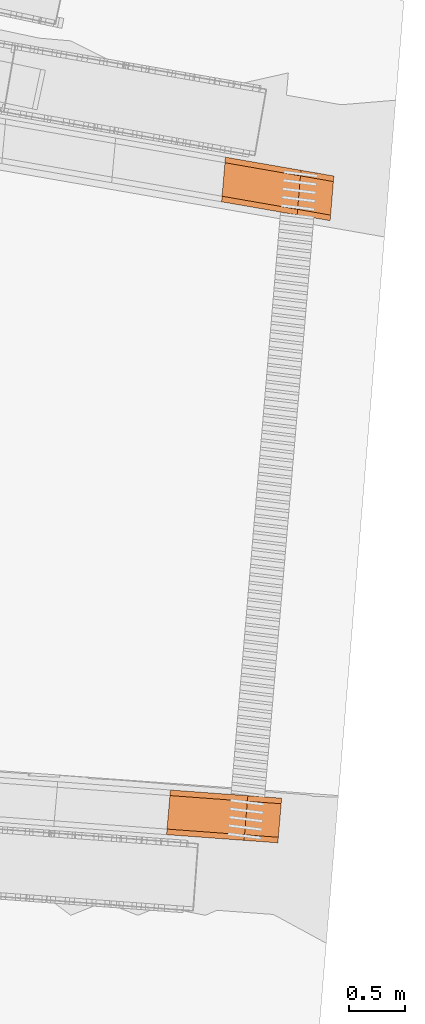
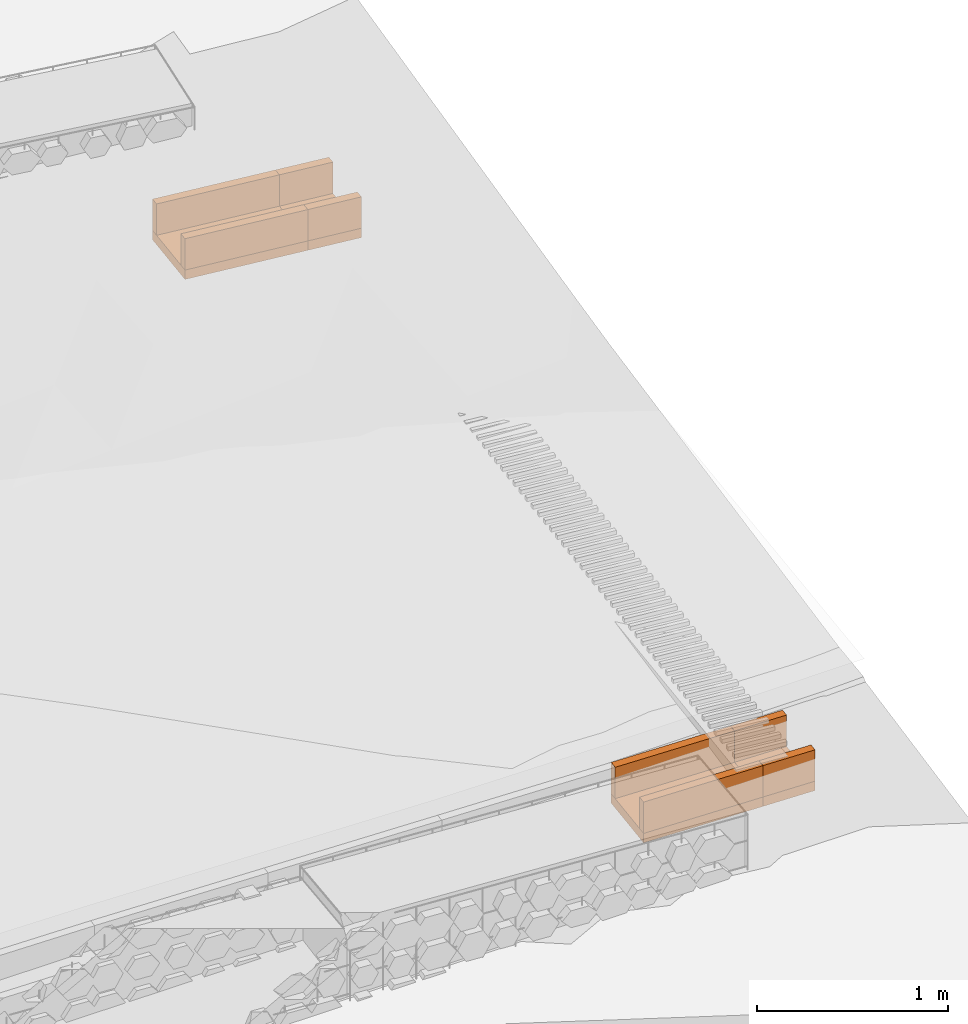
# Not in any storey, part 45 of 45: 12 proxies.
"""IFC4 model written with IfcOpenShell, lengths in metres."""

from ifc_helpers import new_model, si_unit, direction, frame, origin_with_axes, place, context, subcontext, project, spatial, polygons, material, element, save


model = new_model("IFC4")

# Units and contexts
model_context = context("Model", 3, precision=1e-05, world=origin_with_axes(), true_north=direction((0.0, 1.0)))
body_context = subcontext(model_context, "Body", "Model", "MODEL_VIEW")
ifc_project = project(units=[si_unit("VOLUMEUNIT", "CUBIC_METRE"), si_unit("LENGTHUNIT", "METRE"), si_unit("AREAUNIT", "SQUARE_METRE")], contexts=[model_context])

# Site
site_placement = place(None, origin_with_axes())
site = spatial("IfcSite", under=ifc_project, at=site_placement, Name="Lares · Rua das Mercês · artigo 4771")

# Proxies
ifc_material = material(Name="Caleiras · betão", Category="concrete")
proxy_1_placement = place(site_placement, frame((0.0, 0.0, 0.0), z_axis=(0.0, 0.0, 1.0), x_axis=(1.0, -1.03767253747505e-17, 0.0)))
element("IfcBuildingElementProxy", 1, at=proxy_1_placement, inside=site, material=ifc_material, Name="Acesso · canal lateral", ObjectType="Acesso · canal lateral", PredefinedType="USERDEFINED", context=body_context, shape_type="Tessellation", body=[
    polygons([(81.7482616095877, 0.159999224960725, 15.8586952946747), (81.7825066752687, 0.558530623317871, 15.8586952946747), (82.473717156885, 0.5077103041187, 15.879875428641), (82.439472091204, 0.109178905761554, 15.879875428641), (81.7482616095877, 0.159999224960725, 15.9186952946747), (81.7825066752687, 0.558530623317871, 15.9186952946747), (82.473717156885, 0.5077103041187, 15.939875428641), (82.439472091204, 0.109178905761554, 15.939875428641)], [[[4, 3, 2, 1]], [[5, 6, 7, 8]], [[1, 2, 6, 5]], [[2, 3, 7, 6]], [[3, 4, 8, 7]], [[4, 1, 5, 8]]]),
])
proxy_2_placement = place(site_placement, frame((0.0, 0.0, 0.0), z_axis=(0.0, 0.0, 1.0), x_axis=(1.0, -1.03767253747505e-17, 0.0)))
element("IfcBuildingElementProxy", 2, at=proxy_2_placement, inside=site, material=ifc_material, Name="Acesso · canal lateral", ObjectType="Acesso · canal lateral", PredefinedType="USERDEFINED", context=body_context, shape_type="Tessellation", body=[
    polygons([(81.7482616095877, 0.159999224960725, 15.9186952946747), (81.7525422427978, 0.209815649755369, 15.9186952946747), (82.4437527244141, 0.158995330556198, 15.939875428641), (82.439472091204, 0.109178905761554, 15.939875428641), (81.7482616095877, 0.159999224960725, 16.1186952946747), (81.7525422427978, 0.209815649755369, 16.1186952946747), (82.4437527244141, 0.158995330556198, 16.139875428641), (82.439472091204, 0.109178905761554, 16.139875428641)], [[[4, 3, 2, 1]], [[5, 6, 7, 8]], [[1, 2, 6, 5]], [[2, 3, 7, 6]], [[3, 4, 8, 7]], [[4, 1, 5, 8]]]),
])
proxy_3_placement = place(site_placement, frame((0.0, 0.0, 0.0), z_axis=(0.0, 0.0, 1.0), x_axis=(1.0, -1.03767253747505e-17, 0.0)))
element("IfcBuildingElementProxy", 3, at=proxy_3_placement, inside=site, material=ifc_material, Name="Acesso · canal lateral", ObjectType="Acesso · canal lateral", PredefinedType="USERDEFINED", context=body_context, shape_type="Tessellation", body=[
    polygons([(81.7782260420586, 0.508714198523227, 15.9186952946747), (81.7825066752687, 0.558530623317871, 15.9186952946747), (82.473717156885, 0.5077103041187, 15.939875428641), (82.4694365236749, 0.457893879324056, 15.939875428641), (81.7782260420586, 0.508714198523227, 16.1186952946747), (81.7825066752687, 0.558530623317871, 16.1186952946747), (82.473717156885, 0.5077103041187, 16.139875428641), (82.4694365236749, 0.457893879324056, 16.139875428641)], [[[4, 3, 2, 1]], [[5, 6, 7, 8]], [[1, 2, 6, 5]], [[2, 3, 7, 6]], [[3, 4, 8, 7]], [[4, 1, 5, 8]]]),
])
proxy_4_placement = place(site_placement, frame((0.0, 0.0, 0.0), z_axis=(0.0, 0.0, 1.0), x_axis=(1.0, -1.03767253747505e-17, 0.0)))
element("IfcBuildingElementProxy", 4, at=proxy_4_placement, inside=site, material=ifc_material, Name="Acesso · canal lateral", ObjectType="Acesso · canal lateral", PredefinedType="USERDEFINED", context=body_context, shape_type="Tessellation", body=[
    polygons([(82.4397681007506, 0.109153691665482, 15.879875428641), (82.4734211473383, 0.507735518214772, 15.879875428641), (82.7749498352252, 0.485566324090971, 15.8891147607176), (82.7412967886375, 0.0869844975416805, 15.8891147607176), (82.4397681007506, 0.109153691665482, 15.939875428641), (82.4734211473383, 0.507735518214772, 15.939875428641), (82.7749498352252, 0.485566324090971, 15.9491147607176), (82.7412967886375, 0.0869844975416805, 15.9491147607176)], [[[4, 3, 2, 1]], [[5, 6, 7, 8]], [[1, 2, 6, 5]], [[2, 3, 7, 6]], [[3, 4, 8, 7]], [[4, 1, 5, 8]]]),
])
proxy_5_placement = place(site_placement, frame((0.0, 0.0, 0.0), z_axis=(0.0, 0.0, 1.0), x_axis=(1.0, -1.03767253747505e-17, 0.0)))
element("IfcBuildingElementProxy", 5, at=proxy_5_placement, inside=site, material=ifc_material, Name="Acesso · canal lateral", ObjectType="Acesso · canal lateral", PredefinedType="USERDEFINED", context=body_context, shape_type="Tessellation", body=[
    polygons([(82.4397681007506, 0.109153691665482, 15.939875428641), (82.4439747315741, 0.158976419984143, 15.939875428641), (82.745503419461, 0.136807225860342, 15.9491147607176), (82.7412967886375, 0.0869844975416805, 15.9491147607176), (82.4397681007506, 0.109153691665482, 16.139875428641), (82.4439747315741, 0.158976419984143, 16.139875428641), (82.745503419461, 0.136807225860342, 16.1491147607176), (82.7412967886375, 0.0869844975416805, 16.1491147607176)], [[[4, 3, 2, 1]], [[5, 6, 7, 8]], [[1, 2, 6, 5]], [[2, 3, 7, 6]], [[3, 4, 8, 7]], [[4, 1, 5, 8]]]),
])
proxy_6_placement = place(site_placement, frame((0.0, 0.0, 0.0), z_axis=(0.0, 0.0, 1.0), x_axis=(1.0, -1.03767253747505e-17, 0.0)))
element("IfcBuildingElementProxy", 6, at=proxy_6_placement, inside=site, material=ifc_material, Name="Acesso · canal lateral", ObjectType="Acesso · canal lateral", PredefinedType="USERDEFINED", context=body_context, shape_type="Tessellation", body=[
    polygons([(82.4692145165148, 0.457912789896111, 15.939875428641), (82.4734211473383, 0.507735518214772, 15.939875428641), (82.7749498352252, 0.485566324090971, 15.9491147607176), (82.7707432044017, 0.43574359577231, 15.9491147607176), (82.4692145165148, 0.457912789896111, 16.139875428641), (82.4734211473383, 0.507735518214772, 16.139875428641), (82.7749498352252, 0.485566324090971, 16.1491147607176), (82.7707432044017, 0.43574359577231, 16.1491147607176)], [[[4, 3, 2, 1]], [[5, 6, 7, 8]], [[1, 2, 6, 5]], [[2, 3, 7, 6]], [[3, 4, 8, 7]], [[4, 1, 5, 8]]]),
])
proxy_7_placement = place(site_placement, frame((0.0, 0.0, 0.0), z_axis=(0.0, 0.0, 1.0), x_axis=(1.0, -1.03767253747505e-17, 0.0)))
element("IfcBuildingElementProxy", 7, at=proxy_7_placement, inside=site, material=ifc_material, Name="Acesso · canal lateral", ObjectType="Acesso · canal lateral", PredefinedType="USERDEFINED", context=body_context, shape_type="Tessellation", body=[
    polygons([(82.2390938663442, 5.80476864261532, 15.8586952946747), (82.2733389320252, 6.20330004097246, 15.8586952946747), (82.947270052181, 6.08618051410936, 15.879875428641), (82.9130249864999, 5.68764911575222, 15.879875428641), (82.2390938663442, 5.80476864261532, 15.9186952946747), (82.2733389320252, 6.20330004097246, 15.9186952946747), (82.947270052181, 6.08618051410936, 15.939875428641), (82.9130249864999, 5.68764911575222, 15.939875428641)], [[[4, 3, 2, 1]], [[5, 6, 7, 8]], [[1, 2, 6, 5]], [[2, 3, 7, 6]], [[3, 4, 8, 7]], [[4, 1, 5, 8]]]),
])
proxy_8_placement = place(site_placement, frame((0.0, 0.0, 0.0), z_axis=(0.0, 0.0, 1.0), x_axis=(1.0, -1.03767253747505e-17, 0.0)))
element("IfcBuildingElementProxy", 8, at=proxy_8_placement, inside=site, material=ifc_material, Name="Acesso · canal lateral", ObjectType="Acesso · canal lateral", PredefinedType="USERDEFINED", context=body_context, shape_type="Tessellation", body=[
    polygons([(82.2390938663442, 5.80476864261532, 15.9186952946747), (82.2433744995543, 5.85458506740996, 15.9186952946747), (82.91730561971, 5.73746554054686, 15.939875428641), (82.9130249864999, 5.68764911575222, 15.939875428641), (82.2390938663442, 5.80476864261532, 16.1186952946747), (82.2433744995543, 5.85458506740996, 16.1186952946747), (82.91730561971, 5.73746554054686, 16.139875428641), (82.9130249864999, 5.68764911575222, 16.139875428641)], [[[4, 3, 2, 1]], [[5, 6, 7, 8]], [[1, 2, 6, 5]], [[2, 3, 7, 6]], [[3, 4, 8, 7]], [[4, 1, 5, 8]]]),
])
proxy_9_placement = place(site_placement, frame((0.0, 0.0, 0.0), z_axis=(0.0, 0.0, 1.0), x_axis=(1.0, -1.03767253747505e-17, 0.0)))
element("IfcBuildingElementProxy", 9, at=proxy_9_placement, inside=site, material=ifc_material, Name="Acesso · canal lateral", ObjectType="Acesso · canal lateral", PredefinedType="USERDEFINED", context=body_context, shape_type="Tessellation", body=[
    polygons([(82.2690582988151, 6.15348361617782, 15.9186952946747), (82.2733389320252, 6.20330004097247, 15.9186952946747), (82.947270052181, 6.08618051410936, 15.939875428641), (82.9429894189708, 6.03636408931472, 15.939875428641), (82.2690582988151, 6.15348361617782, 16.1186952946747), (82.2733389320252, 6.20330004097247, 16.1186952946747), (82.947270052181, 6.08618051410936, 16.139875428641), (82.9429894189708, 6.03636408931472, 16.139875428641)], [[[4, 3, 2, 1]], [[5, 6, 7, 8]], [[1, 2, 6, 5]], [[2, 3, 7, 6]], [[3, 4, 8, 7]], [[4, 1, 5, 8]]]),
])
proxy_10_placement = place(site_placement, frame((0.0, 0.0, 0.0), z_axis=(0.0, 0.0, 1.0), x_axis=(1.0, -1.03767253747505e-17, 0.0)))
element("IfcBuildingElementProxy", 10, at=proxy_10_placement, inside=site, material=ifc_material, Name="Acesso · canal lateral", ObjectType="Acesso · canal lateral", PredefinedType="USERDEFINED", context=body_context, shape_type="Tessellation", body=[
    polygons([(82.9133209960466, 5.68762390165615, 15.879875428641), (82.9469740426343, 6.08620572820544, 15.879875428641), (83.2409560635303, 6.03511513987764, 15.8891147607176), (83.2073030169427, 5.63653331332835, 15.8891147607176), (82.9133209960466, 5.68762390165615, 15.939875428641), (82.9469740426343, 6.08620572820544, 15.939875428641), (83.2409560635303, 6.03511513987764, 15.9491147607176), (83.2073030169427, 5.63653331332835, 15.9491147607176)], [[[4, 3, 2, 1]], [[5, 6, 7, 8]], [[1, 2, 6, 5]], [[2, 3, 7, 6]], [[3, 4, 8, 7]], [[4, 1, 5, 8]]]),
])
proxy_11_placement = place(site_placement, frame((0.0, 0.0, 0.0), z_axis=(0.0, 0.0, 1.0), x_axis=(1.0, -1.03767253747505e-17, 0.0)))
element("IfcBuildingElementProxy", 11, at=proxy_11_placement, inside=site, material=ifc_material, Name="Acesso · canal lateral", ObjectType="Acesso · canal lateral", PredefinedType="USERDEFINED", context=body_context, shape_type="Tessellation", body=[
    polygons([(82.9133209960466, 5.68762390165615, 15.939875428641), (82.9175276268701, 5.73744662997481, 15.939875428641), (83.2115096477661, 5.68635604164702, 15.9491147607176), (83.2073030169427, 5.63653331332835, 15.9491147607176), (82.9133209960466, 5.68762390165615, 16.139875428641), (82.9175276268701, 5.73744662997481, 16.139875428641), (83.2115096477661, 5.68635604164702, 16.1491147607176), (83.2073030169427, 5.63653331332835, 16.1491147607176)], [[[4, 3, 2, 1]], [[5, 6, 7, 8]], [[1, 2, 6, 5]], [[2, 3, 7, 6]], [[3, 4, 8, 7]], [[4, 1, 5, 8]]]),
])
proxy_12_placement = place(site_placement, frame((0.0, 0.0, 0.0), z_axis=(0.0, 0.0, 1.0), x_axis=(1.0, -1.03767253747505e-17, 0.0)))
element("IfcBuildingElementProxy", 12, at=proxy_12_placement, inside=site, material=ifc_material, Name="Acesso · canal lateral", ObjectType="Acesso · canal lateral", PredefinedType="USERDEFINED", context=body_context, shape_type="Tessellation", body=[
    polygons([(82.9427674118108, 6.03638299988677, 15.939875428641), (82.9469740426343, 6.08620572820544, 15.939875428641), (83.2409560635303, 6.03511513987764, 15.9491147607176), (83.2367494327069, 5.98529241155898, 15.9491147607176), (82.9427674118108, 6.03638299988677, 16.139875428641), (82.9469740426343, 6.08620572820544, 16.139875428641), (83.2409560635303, 6.03511513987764, 16.1491147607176), (83.2367494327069, 5.98529241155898, 16.1491147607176)], [[[4, 3, 2, 1]], [[5, 6, 7, 8]], [[1, 2, 6, 5]], [[2, 3, 7, 6]], [[3, 4, 8, 7]], [[4, 1, 5, 8]]]),
])

save(model, "model.ifc")
